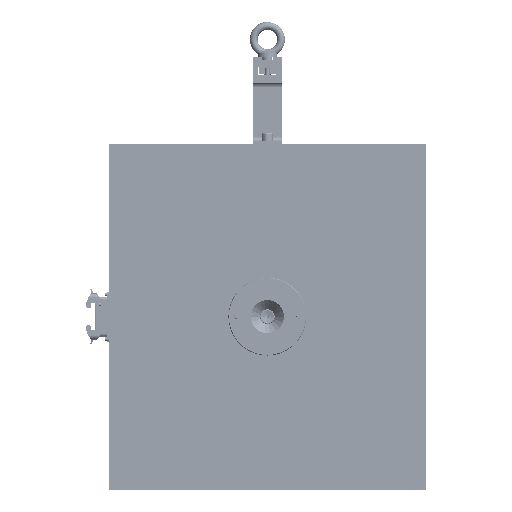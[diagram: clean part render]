
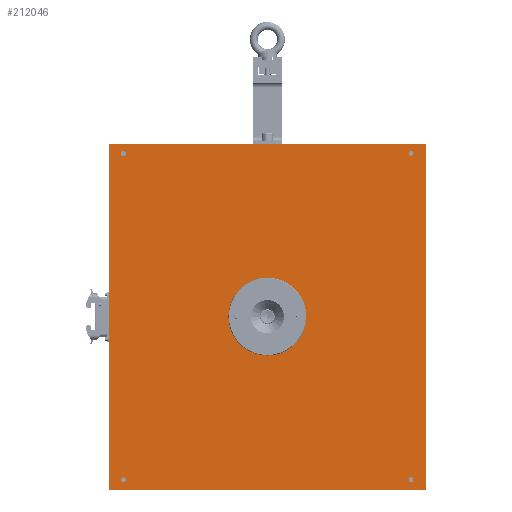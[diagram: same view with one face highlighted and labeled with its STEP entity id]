
A CAD part, top view. The second image highlights one B-rep face of the part: STEP entity #212046.
In plain terms, the highlighted planar face has unit normal (0, 0, 1).
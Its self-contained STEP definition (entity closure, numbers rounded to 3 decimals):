
#211785=CARTESIAN_POINT('Vertex',(325.,355.,8.)) ;
#211801=CARTESIAN_POINT('Vertex',(-325.,355.,8.)) ;
#211804=CARTESIAN_POINT('Line Origine',(0.,355.,8.)) ;
#211825=CARTESIAN_POINT('Vertex',(-325.,-355.,8.)) ;
#211841=CARTESIAN_POINT('Vertex',(325.,-355.,8.)) ;
#211844=CARTESIAN_POINT('Line Origine',(0.,-355.,8.)) ;
#211865=CARTESIAN_POINT('Vertex',(-45.,0.,8.)) ;
#211870=CARTESIAN_POINT('Axis2P3D Location',(0.,0.,8.)) ;
#211874=CARTESIAN_POINT('Vertex',(45.,0.,8.)) ;
#211896=CARTESIAN_POINT('Axis2P3D Location',(0.,0.,8.)) ;
#211913=CARTESIAN_POINT('Axis2P3D Location',(0.,0.,8.)) ;
#211918=CARTESIAN_POINT('Line Origine',(-325.,0.,8.)) ;
#211923=CARTESIAN_POINT('Line Origine',(325.,0.,8.)) ;
#211934=CARTESIAN_POINT('Axis2P3D Location',(64.,0.,8.)) ;
#211938=CARTESIAN_POINT('Vertex',(61.587,1.318,8.)) ;
#211940=CARTESIAN_POINT('Vertex',(66.413,-1.318,8.)) ;
#211943=CARTESIAN_POINT('Axis2P3D Location',(64.,0.,8.)) ;
#211952=CARTESIAN_POINT('Axis2P3D Location',(-64.,0.,8.)) ;
#211956=CARTESIAN_POINT('Vertex',(-66.413,1.318,8.)) ;
#211958=CARTESIAN_POINT('Vertex',(-61.587,-1.318,8.)) ;
#211961=CARTESIAN_POINT('Axis2P3D Location',(-64.,0.,8.)) ;
#211970=CARTESIAN_POINT('Axis2P3D Location',(-295.,-335.,8.)) ;
#211974=CARTESIAN_POINT('Vertex',(-299.388,-332.603,8.)) ;
#211976=CARTESIAN_POINT('Vertex',(-290.612,-337.397,8.)) ;
#211979=CARTESIAN_POINT('Axis2P3D Location',(-295.,-335.,8.)) ;
#211988=CARTESIAN_POINT('Axis2P3D Location',(295.,-335.,8.)) ;
#211992=CARTESIAN_POINT('Vertex',(290.612,-332.603,8.)) ;
#211994=CARTESIAN_POINT('Vertex',(299.388,-337.397,8.)) ;
#211997=CARTESIAN_POINT('Axis2P3D Location',(295.,-335.,8.)) ;
#212006=CARTESIAN_POINT('Axis2P3D Location',(295.,335.,8.)) ;
#212010=CARTESIAN_POINT('Vertex',(290.612,337.397,8.)) ;
#212012=CARTESIAN_POINT('Vertex',(299.388,332.603,8.)) ;
#212015=CARTESIAN_POINT('Axis2P3D Location',(295.,335.,8.)) ;
#212024=CARTESIAN_POINT('Axis2P3D Location',(-295.,335.,8.)) ;
#212028=CARTESIAN_POINT('Vertex',(-299.388,337.397,8.)) ;
#212030=CARTESIAN_POINT('Vertex',(-290.612,332.603,8.)) ;
#212033=CARTESIAN_POINT('Axis2P3D Location',(-295.,335.,8.)) ;
#211805=DIRECTION('Vector Direction',(-1.,0.,0.)) ;
#211845=DIRECTION('Vector Direction',(1.,0.,0.)) ;
#211871=DIRECTION('Axis2P3D Direction',(0.,0.,1.)) ;
#211897=DIRECTION('Axis2P3D Direction',(0.,0.,1.)) ;
#211914=DIRECTION('Axis2P3D Direction',(0.,0.,1.)) ;
#211915=DIRECTION('Axis2P3D XDirection',(1.,0.,0.)) ;
#211919=DIRECTION('Vector Direction',(0.,1.,0.)) ;
#211924=DIRECTION('Vector Direction',(0.,-1.,0.)) ;
#211935=DIRECTION('Axis2P3D Direction',(0.,0.,1.)) ;
#211944=DIRECTION('Axis2P3D Direction',(0.,0.,1.)) ;
#211953=DIRECTION('Axis2P3D Direction',(0.,0.,1.)) ;
#211962=DIRECTION('Axis2P3D Direction',(0.,0.,1.)) ;
#211971=DIRECTION('Axis2P3D Direction',(0.,0.,1.)) ;
#211980=DIRECTION('Axis2P3D Direction',(0.,0.,1.)) ;
#211989=DIRECTION('Axis2P3D Direction',(0.,0.,1.)) ;
#211998=DIRECTION('Axis2P3D Direction',(0.,0.,1.)) ;
#212007=DIRECTION('Axis2P3D Direction',(0.,0.,1.)) ;
#212016=DIRECTION('Axis2P3D Direction',(0.,0.,1.)) ;
#212025=DIRECTION('Axis2P3D Direction',(0.,0.,1.)) ;
#212034=DIRECTION('Axis2P3D Direction',(0.,0.,1.)) ;
#211872=AXIS2_PLACEMENT_3D('Circle Axis2P3D',#211870,#211871,$) ;
#211898=AXIS2_PLACEMENT_3D('Circle Axis2P3D',#211896,#211897,$) ;
#211916=AXIS2_PLACEMENT_3D('Plane Axis2P3D',#211913,#211914,#211915) ;
#211936=AXIS2_PLACEMENT_3D('Circle Axis2P3D',#211934,#211935,$) ;
#211945=AXIS2_PLACEMENT_3D('Circle Axis2P3D',#211943,#211944,$) ;
#211954=AXIS2_PLACEMENT_3D('Circle Axis2P3D',#211952,#211953,$) ;
#211963=AXIS2_PLACEMENT_3D('Circle Axis2P3D',#211961,#211962,$) ;
#211972=AXIS2_PLACEMENT_3D('Circle Axis2P3D',#211970,#211971,$) ;
#211981=AXIS2_PLACEMENT_3D('Circle Axis2P3D',#211979,#211980,$) ;
#211990=AXIS2_PLACEMENT_3D('Circle Axis2P3D',#211988,#211989,$) ;
#211999=AXIS2_PLACEMENT_3D('Circle Axis2P3D',#211997,#211998,$) ;
#212008=AXIS2_PLACEMENT_3D('Circle Axis2P3D',#212006,#212007,$) ;
#212017=AXIS2_PLACEMENT_3D('Circle Axis2P3D',#212015,#212016,$) ;
#212026=AXIS2_PLACEMENT_3D('Circle Axis2P3D',#212024,#212025,$) ;
#212035=AXIS2_PLACEMENT_3D('Circle Axis2P3D',#212033,#212034,$) ;
#211929=ORIENTED_EDGE('',*,*,#211922,.T.) ;
#211930=ORIENTED_EDGE('',*,*,#211848,.F.) ;
#211931=ORIENTED_EDGE('',*,*,#211927,.T.) ;
#211932=ORIENTED_EDGE('',*,*,#211808,.F.) ;
#211949=ORIENTED_EDGE('',*,*,#211942,.F.) ;
#211950=ORIENTED_EDGE('',*,*,#211947,.F.) ;
#211967=ORIENTED_EDGE('',*,*,#211960,.F.) ;
#211968=ORIENTED_EDGE('',*,*,#211965,.F.) ;
#211985=ORIENTED_EDGE('',*,*,#211978,.F.) ;
#211986=ORIENTED_EDGE('',*,*,#211983,.F.) ;
#212003=ORIENTED_EDGE('',*,*,#211996,.F.) ;
#212004=ORIENTED_EDGE('',*,*,#212001,.F.) ;
#212021=ORIENTED_EDGE('',*,*,#212014,.F.) ;
#212022=ORIENTED_EDGE('',*,*,#212019,.F.) ;
#212039=ORIENTED_EDGE('',*,*,#212032,.F.) ;
#212040=ORIENTED_EDGE('',*,*,#212037,.F.) ;
#212043=ORIENTED_EDGE('',*,*,#211900,.F.) ;
#212044=ORIENTED_EDGE('',*,*,#211876,.F.) ;
#211951=FACE_BOUND('',#211948,.T.) ;
#211969=FACE_BOUND('',#211966,.T.) ;
#211987=FACE_BOUND('',#211984,.T.) ;
#212005=FACE_BOUND('',#212002,.T.) ;
#212023=FACE_BOUND('',#212020,.T.) ;
#212041=FACE_BOUND('',#212038,.T.) ;
#212045=FACE_BOUND('',#212042,.T.) ;
#211806=VECTOR('Line Direction',#211805,1.) ;
#211846=VECTOR('Line Direction',#211845,1.) ;
#211920=VECTOR('Line Direction',#211919,1.) ;
#211925=VECTOR('Line Direction',#211924,1.) ;
#212046=ADVANCED_FACE('PartBody',(#211933,#211951,#211969,#211987,#212005,#212023,#212041,#212045),#211917,.T.) ;
#211873=CIRCLE('generated circle',#211872,45.) ;
#211899=CIRCLE('generated circle',#211898,45.) ;
#211937=CIRCLE('generated circle',#211936,2.75) ;
#211946=CIRCLE('generated circle',#211945,2.75) ;
#211955=CIRCLE('generated circle',#211954,2.75) ;
#211964=CIRCLE('generated circle',#211963,2.75) ;
#211973=CIRCLE('generated circle',#211972,5.) ;
#211982=CIRCLE('generated circle',#211981,5.) ;
#211991=CIRCLE('generated circle',#211990,5.) ;
#212000=CIRCLE('generated circle',#211999,5.) ;
#212009=CIRCLE('generated circle',#212008,5.) ;
#212018=CIRCLE('generated circle',#212017,5.) ;
#212027=CIRCLE('generated circle',#212026,5.) ;
#212036=CIRCLE('generated circle',#212035,5.) ;
#211808=EDGE_CURVE('',#211802,#211786,#211807,.F.) ;
#211848=EDGE_CURVE('',#211842,#211826,#211847,.F.) ;
#211876=EDGE_CURVE('',#211866,#211875,#211873,.T.) ;
#211900=EDGE_CURVE('',#211875,#211866,#211899,.T.) ;
#211922=EDGE_CURVE('',#211802,#211826,#211921,.F.) ;
#211927=EDGE_CURVE('',#211842,#211786,#211926,.F.) ;
#211942=EDGE_CURVE('',#211939,#211941,#211937,.T.) ;
#211947=EDGE_CURVE('',#211941,#211939,#211946,.T.) ;
#211960=EDGE_CURVE('',#211957,#211959,#211955,.T.) ;
#211965=EDGE_CURVE('',#211959,#211957,#211964,.T.) ;
#211978=EDGE_CURVE('',#211975,#211977,#211973,.T.) ;
#211983=EDGE_CURVE('',#211977,#211975,#211982,.T.) ;
#211996=EDGE_CURVE('',#211993,#211995,#211991,.T.) ;
#212001=EDGE_CURVE('',#211995,#211993,#212000,.T.) ;
#212014=EDGE_CURVE('',#212011,#212013,#212009,.T.) ;
#212019=EDGE_CURVE('',#212013,#212011,#212018,.T.) ;
#212032=EDGE_CURVE('',#212029,#212031,#212027,.T.) ;
#212037=EDGE_CURVE('',#212031,#212029,#212036,.T.) ;
#211928=EDGE_LOOP('',(#211929,#211930,#211931,#211932)) ;
#211948=EDGE_LOOP('',(#211949,#211950)) ;
#211966=EDGE_LOOP('',(#211967,#211968)) ;
#211984=EDGE_LOOP('',(#211985,#211986)) ;
#212002=EDGE_LOOP('',(#212003,#212004)) ;
#212020=EDGE_LOOP('',(#212021,#212022)) ;
#212038=EDGE_LOOP('',(#212039,#212040)) ;
#212042=EDGE_LOOP('',(#212043,#212044)) ;
#211933=FACE_OUTER_BOUND('',#211928,.T.) ;
#211807=LINE('Line',#211804,#211806) ;
#211847=LINE('Line',#211844,#211846) ;
#211921=LINE('Line',#211918,#211920) ;
#211926=LINE('Line',#211923,#211925) ;
#211917=PLANE('',#211916) ;
#211786=VERTEX_POINT('',#211785) ;
#211802=VERTEX_POINT('',#211801) ;
#211826=VERTEX_POINT('',#211825) ;
#211842=VERTEX_POINT('',#211841) ;
#211866=VERTEX_POINT('',#211865) ;
#211875=VERTEX_POINT('',#211874) ;
#211939=VERTEX_POINT('',#211938) ;
#211941=VERTEX_POINT('',#211940) ;
#211957=VERTEX_POINT('',#211956) ;
#211959=VERTEX_POINT('',#211958) ;
#211975=VERTEX_POINT('',#211974) ;
#211977=VERTEX_POINT('',#211976) ;
#211993=VERTEX_POINT('',#211992) ;
#211995=VERTEX_POINT('',#211994) ;
#212011=VERTEX_POINT('',#212010) ;
#212013=VERTEX_POINT('',#212012) ;
#212029=VERTEX_POINT('',#212028) ;
#212031=VERTEX_POINT('',#212030) ;
